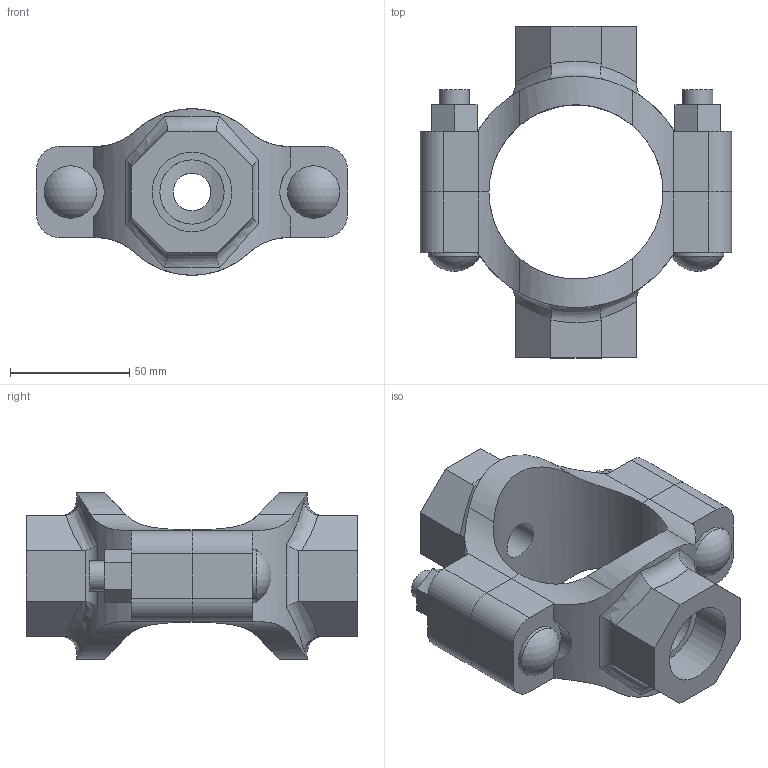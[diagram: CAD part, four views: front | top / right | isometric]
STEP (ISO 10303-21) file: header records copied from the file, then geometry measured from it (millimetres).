
FILE_DESCRIPTION(/* description */ ('VIC MECH-T BRANCH OUTLET CROSS STYLE 920N (THD)','CAx-IF Rec.Pracs.---Representation and Presentation of Product Manufacturing Information (PMI)---4.0---2014-10-13'),/* implementation_level */ '2;1');
FILE_NAME(/* name */ 'C:\Users\Vjadhav\AppData\Roaming\Autodesk\ApplicationPlugins\Back Up\Victaulic_IPS_Mechanical-Cross Outlet_Style 920N (FPT)\Victaulic_IPS_Mechanical-Cross Outlet_02.5x0.5x01.0 (65x15x25).stp',/* time_stamp */ '2020-08-06T18:56:24+05:00',/* author */ ('Vjadhav'),/* organization */ ('Victaulic'),/* preprocessor_version */ 'ST-DEVELOPER v17.2',/* originating_system */ 'Autodesk Inventor 2019',/* authorisation */ '');
FILE_SCHEMA (('AP242_MANAGED_MODEL_BASED_3D_ENGINEERING_MIM_LF { 1 0 10303 442 1 1 4 }'));
Length unit declared in the file: inch
Products named in the file (3): 920NT-02.5x0.5x01.0; 920NT-02.5x0.5; 920NT-02.5x01.0
Assembly tree (2 placements, depth 2):
  920NT-02.5x0.5x01.0
    920NT-02.5x0.5
    920NT-02.5x01.0
Bounding box: 130.56 x 139.19 x 69.84 mm (x, y, z)
Volume: 294703.5 mm3; surface area: 67494.3 mm2
Topology: 2 solids, 2 shells, 132 faces, 350 edges, 236 vertices
Faces by surface type: plane 68, cylinder 50, bspline 8, torus 4, sphere 2
Full cylindrical faces by diameter (mm): 12.7 x4, 15.799 x1, 21.336 x1, 21.982 x2, 26.987 x1, 33.401 x1
Entity records: 5070 total; most frequent: CARTESIAN_POINT 1557, ORIENTED_EDGE 700, DIRECTION 648, EDGE_CURVE 350, VERTEX_POINT 236, AXIS2_PLACEMENT_3D 231, LINE 186, VECTOR 186
